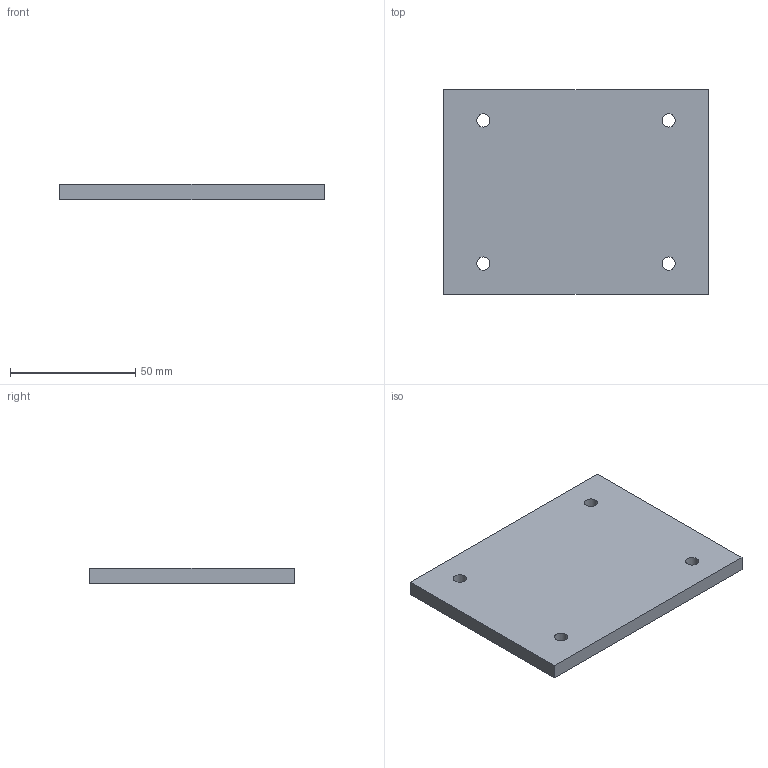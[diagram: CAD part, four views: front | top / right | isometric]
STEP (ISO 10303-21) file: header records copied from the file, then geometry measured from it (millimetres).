
FILE_DESCRIPTION(('Mechanical CAD reference from nasji.com'),'2;1');
FILE_NAME('NASJI.step','',(''),(''),'','NASJI distribution','');
FILE_SCHEMA(('AUTOMOTIVE_DESIGN { 1 0 10303 214 1 1 1 1 }'));
Length unit declared in the file: millimetre
Products named in the file (1): Open CASCADE STEP translator 7.8 75
Bounding box: 105.82 x 81.7 x 6 mm (x, y, z)
Volume: 51343.5 mm3; surface area: 19764.3 mm2
Topology: 1 solids, 1 shells, 10 faces, 24 edges, 16 vertices
Faces by surface type: plane 6, cylinder 4
Full cylindrical faces by diameter (mm): 5.3 x4
Entity records: 658 total; most frequent: CARTESIAN_POINT 147, DIRECTION 94, LINE 56, VECTOR 56, ORIENTED_EDGE 48, PCURVE 48, DEFINITIONAL_REPRESENTATION 48, EDGE_CURVE 24
